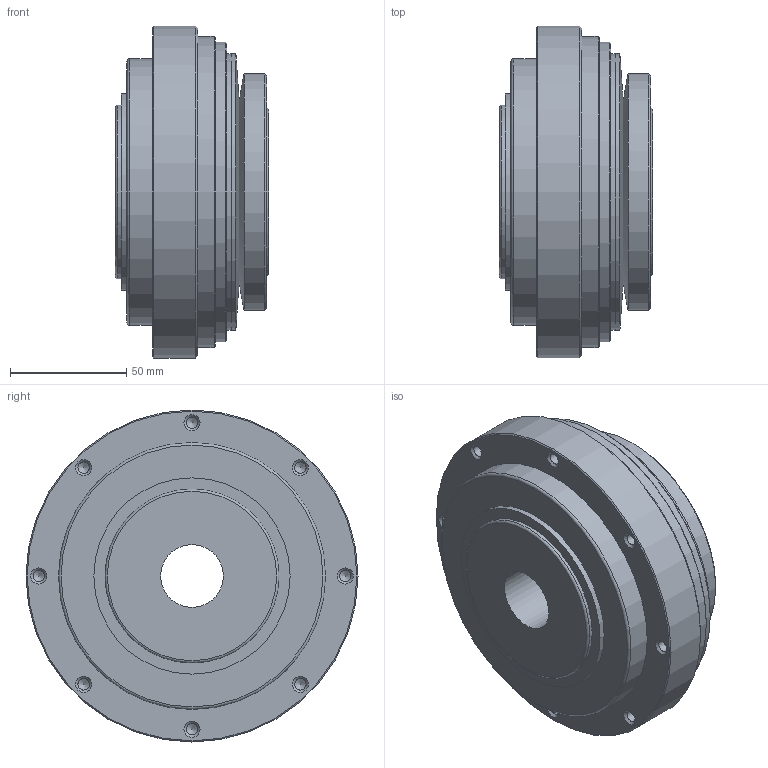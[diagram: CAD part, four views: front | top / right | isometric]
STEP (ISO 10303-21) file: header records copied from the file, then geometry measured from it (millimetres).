
FILE_DESCRIPTION(/* description */ ('Unknown'),/* implementation_level */ '2;1');
FILE_NAME(/* name */ 'SKVA-N 900',/* time_stamp */ '2025-02-05T13:44:03+01:00',/* author */ ('Unknown'),/* organization */ ('Unknown'),/* preprocessor_version */ 'ST-DEVELOPER v18.102',/* originating_system */ 'Solid Edge',/* authorisation */ 'Unknown');
FILE_SCHEMA (('AUTOMOTIVE_DESIGN {1 0 10303 214 3 1 1}'));
Length unit declared in the file: millimetre
Products named in the file (1): SKVA-N 900
Bounding box: 66 x 143 x 143 mm (x, y, z)
Volume: 733515.8 mm3; surface area: 68001.8 mm2
Topology: 1 solids, 1 shells, 63 faces, 140 edges, 87 vertices
Faces by surface type: cone 26, cylinder 25, plane 10, torus 2
Full cylindrical faces by diameter (mm): 4.917 x16, 27 x1, 84.5 x1, 102 x1, 115 x1, 119 x2, 129 x1, 134 x1, 143 x1
Entity records: 1765 total; most frequent: DIRECTION 254, CARTESIAN_POINT 198, FACE_BOUND 134, AXIS2_PLACEMENT_3D 127, ORIENTED_EDGE 126, EDGE_LOOP 126, VERTEX_POINT 71, EDGE_CURVE 63
